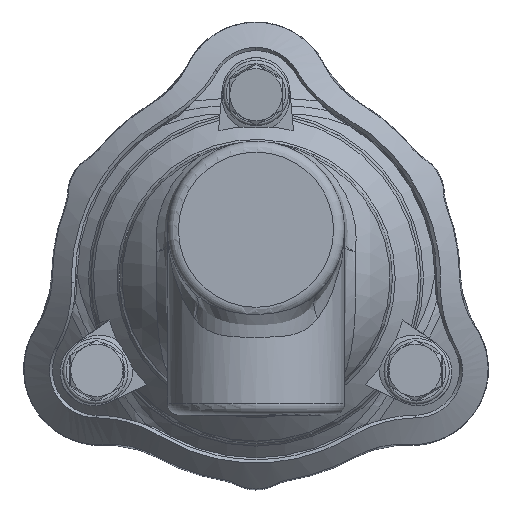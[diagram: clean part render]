
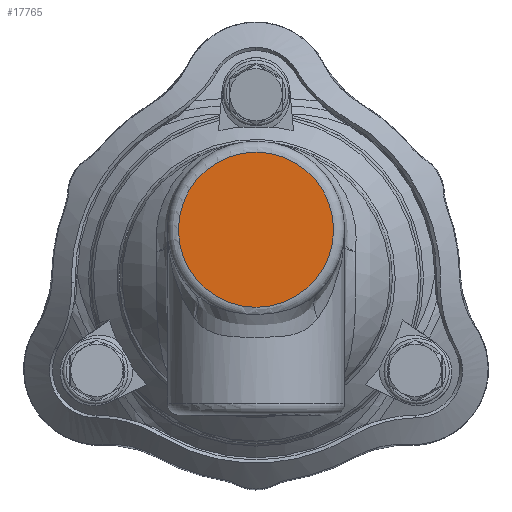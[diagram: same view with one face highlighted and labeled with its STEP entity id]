
A CAD part, top view. The second image highlights one B-rep face of the part: STEP entity #17765.
In plain terms, the highlighted planar face has unit normal (0, 0, 1).
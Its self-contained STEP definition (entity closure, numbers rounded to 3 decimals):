
#573 = CIRCLE ( 'NONE', #1234, 35.5 ) ;
#1234 = AXIS2_PLACEMENT_3D ( 'NONE', #19097, #19098, #19099 ) ;
#1408 = FACE_OUTER_BOUND ( 'NONE', #9794, .T. ) ;
#1763 = VERTEX_POINT ( 'NONE', #16908 ) ;
#2978 = EDGE_CURVE ( 'NONE', #1763, #1763, #573, .T. ) ;
#4333 = AXIS2_PLACEMENT_3D ( 'NONE', #10749, #10755, #10756 ) ;
#7918 = ORIENTED_EDGE ( 'NONE', *, *, #2978, .T. ) ;
#9794 = EDGE_LOOP ( 'NONE', ( #7918 ) ) ;
#10749 = CARTESIAN_POINT ( 'NONE',  ( 0., 22.08, 86. ) ) ;
#10753 = PLANE ( 'NONE',  #4333 ) ;
#10755 = DIRECTION ( 'NONE',  ( 0., 0., 1. ) ) ;
#10756 = DIRECTION ( 'NONE',  ( 1., 0., 0. ) ) ;
#16908 = CARTESIAN_POINT ( 'NONE',  ( 35.5, 22.08, 86. ) ) ;
#17765 = ADVANCED_FACE ( 'NONE', ( #1408 ), #10753, .T. ) ;
#19097 = CARTESIAN_POINT ( 'NONE',  ( 0., 22.08, 86. ) ) ;
#19098 = DIRECTION ( 'NONE',  ( 0., 0., 1. ) ) ;
#19099 = DIRECTION ( 'NONE',  ( 1., 0., 0. ) ) ;
